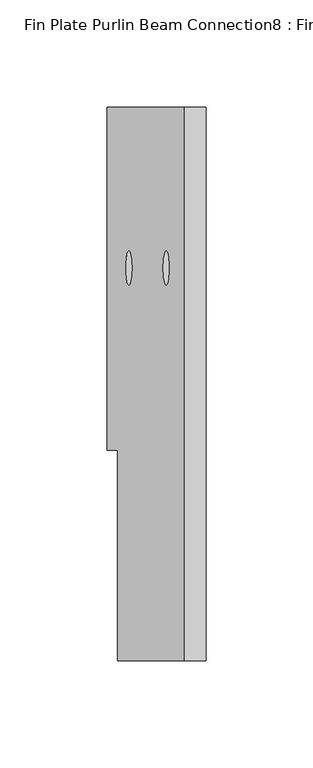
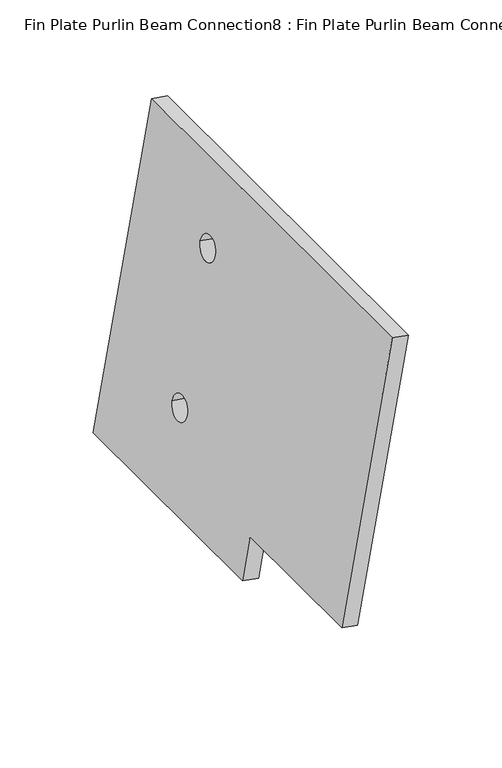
"""IFC4 building model written with IfcOpenShell, lengths in millimetres: proxy geometry, Fin Plate Purlin Beam Connection8 : Fin Plate Purlin Beam Connection."""

from ifc_helpers import new_model, si_unit, point, frame, frame_2d, origin, place, context, project, spatial, polyline, circle_curve, trimmed, segment, composite_curve, outline, extrude, source, transform, mapped, element, save


def fin_plate_purlin_beam_connection8_fin_plate_purlin_beam_56eb9431(model_context):
    return source(origin(), model_context, "Body", "SweptSolid", [
        extrude(outline(polyline([(181.2383863, 0.0), (181.2383863, -98.2), (208.9560484, -98.2), (208.9560484, -258.2), (0.0, -258.2), (0.0, 0.0), (181.2383863, 0.0)]), holes=[composite_curve([segment(trimmed(circle_curve(frame_2d((50.0000001, -183.2)), 8.0), [point((50.0000001, -175.2))], [point((50.0000001, -191.2))], True, "CARTESIAN"), True, "CONTINUOUS"), segment(trimmed(circle_curve(frame_2d((50.0000001, -183.2)), 8.0), [point((50.0000001, -191.2))], [point((50.0000001, -175.2))], True, "CARTESIAN"), True, "CONTINUOUS")], self_intersect=False), composite_curve([segment(trimmed(circle_curve(frame_2d((150.0000001, -183.2)), 8.0), [point((150.0000001, -175.2))], [point((150.0000001, -191.2))], True, "CARTESIAN"), True, "CONTINUOUS"), segment(trimmed(circle_curve(frame_2d((150.0000001, -183.2)), 8.0), [point((150.0000001, -191.2))], [point((150.0000001, -175.2))], True, "CARTESIAN"), True, "CONTINUOUS")], self_intersect=False)]), frame((-31679.4969859, 15858.023117, 3413.6888089), z_axis=(-0.9848077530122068, 0.0, 0.17364817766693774), x_axis=(-0.17364817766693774, 0.0, -0.9848077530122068)), (0.0, 0.0, 1.0), 10.0),
    ])


if __name__ == "__main__":
    model = new_model("IFC4")
    model_context = context("Model", 3, world=origin())
    ifc_project = project(units=[si_unit("LENGTHUNIT", "METRE", prefix="MILLI")], contexts=[model_context])
    site = spatial("IfcSite", under=ifc_project)
    building = spatial("IfcBuilding", under=site)
    placement = place(None, origin())
    fin_plate_purlin_beam_connection8_fin_plate_purlin_beam_shape = fin_plate_purlin_beam_connection8_fin_plate_purlin_beam_56eb9431(model_context)
    element("IfcBuildingElementProxy", 1, Name="Fin Plate Purlin Beam Connection8 : Fin Plate Purlin Beam Connection", ObjectType="Fin Plate Purlin Beam Connection8 : Fin Plate Purlin Beam Connection", at=placement, inside=building, context=model_context, shape_type="MappedRepresentation", body=[
        mapped(fin_plate_purlin_beam_connection8_fin_plate_purlin_beam_shape, transform((0.0, 0.0, 0.0), x_axis=(1.0, 0.0, 0.0), y_axis=(0.0, 1.0, 0.0), z_axis=(0.0, 0.0, 1.0))),
    ])
    save(model, "model.ifc")
